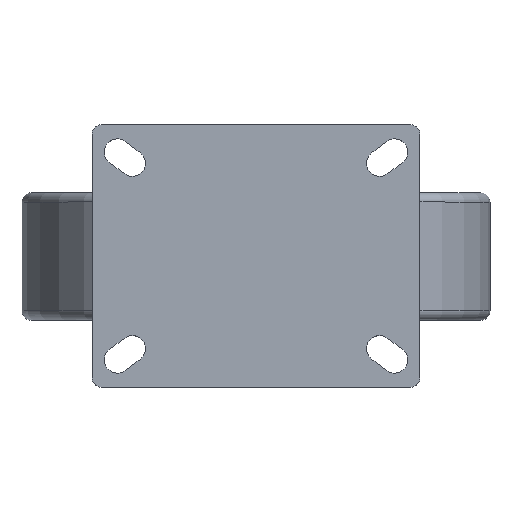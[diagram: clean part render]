
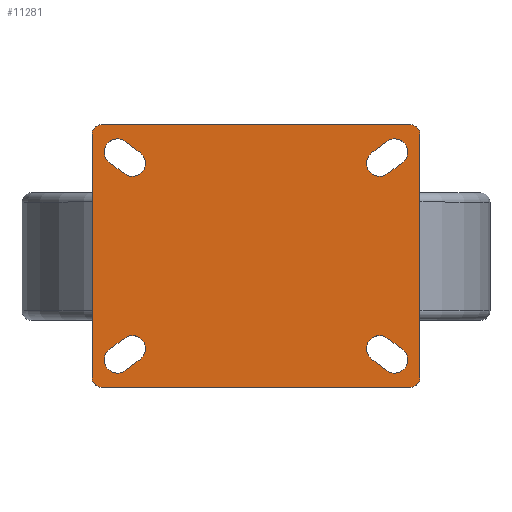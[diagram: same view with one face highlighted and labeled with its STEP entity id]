
A CAD part, top view. The second image highlights one B-rep face of the part: STEP entity #11281.
In plain terms, the highlighted planar face has unit normal (0, 0, 1).
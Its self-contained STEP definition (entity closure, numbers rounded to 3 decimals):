
#845=FACE_BOUND('',#4048,.T.);
#846=FACE_BOUND('',#4049,.T.);
#847=FACE_BOUND('',#4050,.T.);
#848=FACE_BOUND('',#4051,.T.);
#1723=LINE('',#19328,#2678);
#1726=LINE('',#19336,#2681);
#1729=LINE('',#19344,#2684);
#1732=LINE('',#19352,#2687);
#1735=LINE('',#19360,#2690);
#1738=LINE('',#19368,#2693);
#1741=LINE('',#19376,#2696);
#1744=LINE('',#19384,#2699);
#1748=LINE('',#19396,#2703);
#1751=LINE('',#19404,#2706);
#1754=LINE('',#19412,#2709);
#1757=LINE('',#19419,#2712);
#2678=VECTOR('',#13797,10.);
#2681=VECTOR('',#13806,10.);
#2684=VECTOR('',#13815,10.);
#2687=VECTOR('',#13824,10.);
#2690=VECTOR('',#13833,10.);
#2693=VECTOR('',#13842,10.);
#2696=VECTOR('',#13851,10.);
#2699=VECTOR('',#13860,10.);
#2703=VECTOR('',#13874,10.);
#2706=VECTOR('',#13883,10.);
#2709=VECTOR('',#13892,10.);
#2712=VECTOR('',#13901,10.);
#3378=FACE_OUTER_BOUND('',#4047,.T.);
#4047=EDGE_LOOP('',(#10163,#10164,#10165,#10166,#10167,#10168,#10169,#10170));
#4048=EDGE_LOOP('',(#10171,#10172,#10173,#10174));
#4049=EDGE_LOOP('',(#10175,#10176,#10177,#10178));
#4050=EDGE_LOOP('',(#10179,#10180,#10181,#10182));
#4051=EDGE_LOOP('',(#10183,#10184,#10185,#10186));
#4274=CIRCLE('',#11840,7.);
#4275=CIRCLE('',#11843,7.);
#4276=CIRCLE('',#11846,7.);
#4277=CIRCLE('',#11849,7.);
#4278=CIRCLE('',#11852,7.);
#4279=CIRCLE('',#11855,7.);
#4280=CIRCLE('',#11858,7.);
#4281=CIRCLE('',#11861,7.);
#4282=CIRCLE('',#11863,5.);
#4283=CIRCLE('',#11866,5.);
#4284=CIRCLE('',#11869,5.);
#4285=CIRCLE('',#11872,5.);
#5344=VERTEX_POINT('',#19325);
#5345=VERTEX_POINT('',#19327);
#5346=VERTEX_POINT('',#19331);
#5347=VERTEX_POINT('',#19335);
#5348=VERTEX_POINT('',#19341);
#5349=VERTEX_POINT('',#19343);
#5350=VERTEX_POINT('',#19347);
#5351=VERTEX_POINT('',#19351);
#5352=VERTEX_POINT('',#19357);
#5353=VERTEX_POINT('',#19359);
#5354=VERTEX_POINT('',#19363);
#5355=VERTEX_POINT('',#19367);
#5356=VERTEX_POINT('',#19373);
#5357=VERTEX_POINT('',#19375);
#5358=VERTEX_POINT('',#19379);
#5359=VERTEX_POINT('',#19383);
#5360=VERTEX_POINT('',#19389);
#5361=VERTEX_POINT('',#19391);
#5362=VERTEX_POINT('',#19395);
#5363=VERTEX_POINT('',#19399);
#5364=VERTEX_POINT('',#19403);
#5365=VERTEX_POINT('',#19407);
#5366=VERTEX_POINT('',#19411);
#5367=VERTEX_POINT('',#19415);
#6942=EDGE_CURVE('',#5345,#5344,#1723,.T.);
#6944=EDGE_CURVE('',#5346,#5345,#4274,.T.);
#6946=EDGE_CURVE('',#5347,#5346,#1726,.T.);
#6948=EDGE_CURVE('',#5344,#5347,#4275,.T.);
#6950=EDGE_CURVE('',#5349,#5348,#1729,.T.);
#6952=EDGE_CURVE('',#5350,#5349,#4276,.T.);
#6954=EDGE_CURVE('',#5351,#5350,#1732,.T.);
#6956=EDGE_CURVE('',#5348,#5351,#4277,.T.);
#6958=EDGE_CURVE('',#5353,#5352,#1735,.T.);
#6960=EDGE_CURVE('',#5354,#5353,#4278,.T.);
#6962=EDGE_CURVE('',#5355,#5354,#1738,.T.);
#6964=EDGE_CURVE('',#5352,#5355,#4279,.T.);
#6966=EDGE_CURVE('',#5357,#5356,#1741,.T.);
#6968=EDGE_CURVE('',#5358,#5357,#4280,.T.);
#6970=EDGE_CURVE('',#5359,#5358,#1744,.T.);
#6972=EDGE_CURVE('',#5356,#5359,#4281,.T.);
#6974=EDGE_CURVE('',#5361,#5360,#4282,.T.);
#6976=EDGE_CURVE('',#5362,#5361,#1748,.T.);
#6978=EDGE_CURVE('',#5363,#5362,#4283,.T.);
#6980=EDGE_CURVE('',#5364,#5363,#1751,.T.);
#6982=EDGE_CURVE('',#5365,#5364,#4284,.T.);
#6984=EDGE_CURVE('',#5366,#5365,#1754,.T.);
#6986=EDGE_CURVE('',#5367,#5366,#4285,.T.);
#6988=EDGE_CURVE('',#5360,#5367,#1757,.T.);
#10163=ORIENTED_EDGE('',*,*,#6988,.T.);
#10164=ORIENTED_EDGE('',*,*,#6986,.T.);
#10165=ORIENTED_EDGE('',*,*,#6984,.T.);
#10166=ORIENTED_EDGE('',*,*,#6982,.T.);
#10167=ORIENTED_EDGE('',*,*,#6980,.T.);
#10168=ORIENTED_EDGE('',*,*,#6978,.T.);
#10169=ORIENTED_EDGE('',*,*,#6976,.T.);
#10170=ORIENTED_EDGE('',*,*,#6974,.T.);
#10171=ORIENTED_EDGE('',*,*,#6972,.T.);
#10172=ORIENTED_EDGE('',*,*,#6970,.T.);
#10173=ORIENTED_EDGE('',*,*,#6968,.T.);
#10174=ORIENTED_EDGE('',*,*,#6966,.T.);
#10175=ORIENTED_EDGE('',*,*,#6964,.T.);
#10176=ORIENTED_EDGE('',*,*,#6962,.T.);
#10177=ORIENTED_EDGE('',*,*,#6960,.T.);
#10178=ORIENTED_EDGE('',*,*,#6958,.T.);
#10179=ORIENTED_EDGE('',*,*,#6956,.T.);
#10180=ORIENTED_EDGE('',*,*,#6954,.T.);
#10181=ORIENTED_EDGE('',*,*,#6952,.T.);
#10182=ORIENTED_EDGE('',*,*,#6950,.T.);
#10183=ORIENTED_EDGE('',*,*,#6948,.T.);
#10184=ORIENTED_EDGE('',*,*,#6946,.T.);
#10185=ORIENTED_EDGE('',*,*,#6944,.T.);
#10186=ORIENTED_EDGE('',*,*,#6942,.T.);
#10694=PLANE('',#11874);
#11281=ADVANCED_FACE('',(#3378,#845,#846,#847,#848),#10694,.T.);
#11840=AXIS2_PLACEMENT_3D('',#19332,#13801,#13802);
#11843=AXIS2_PLACEMENT_3D('',#19339,#13810,#13811);
#11846=AXIS2_PLACEMENT_3D('',#19348,#13819,#13820);
#11849=AXIS2_PLACEMENT_3D('',#19355,#13828,#13829);
#11852=AXIS2_PLACEMENT_3D('',#19364,#13837,#13838);
#11855=AXIS2_PLACEMENT_3D('',#19371,#13846,#13847);
#11858=AXIS2_PLACEMENT_3D('',#19380,#13855,#13856);
#11861=AXIS2_PLACEMENT_3D('',#19387,#13864,#13865);
#11863=AXIS2_PLACEMENT_3D('',#19392,#13869,#13870);
#11866=AXIS2_PLACEMENT_3D('',#19400,#13878,#13879);
#11869=AXIS2_PLACEMENT_3D('',#19408,#13887,#13888);
#11872=AXIS2_PLACEMENT_3D('',#19416,#13896,#13897);
#11874=AXIS2_PLACEMENT_3D('',#19420,#13902,#13903);
#13797=DIRECTION('',(0.8,-0.6,0.));
#13801=DIRECTION('center_axis',(0.,0.,-1.));
#13802=DIRECTION('ref_axis',(-0.6,-0.8,0.));
#13806=DIRECTION('',(-0.8,0.6,0.));
#13810=DIRECTION('center_axis',(0.,0.,-1.));
#13811=DIRECTION('ref_axis',(0.6,0.8,0.));
#13815=DIRECTION('',(-0.8,-0.6,0.));
#13819=DIRECTION('center_axis',(0.,0.,-1.));
#13820=DIRECTION('ref_axis',(-0.6,0.8,0.));
#13824=DIRECTION('',(0.8,0.6,0.));
#13828=DIRECTION('center_axis',(0.,0.,-1.));
#13829=DIRECTION('ref_axis',(0.6,-0.8,0.));
#13833=DIRECTION('',(-0.8,0.6,0.));
#13837=DIRECTION('center_axis',(0.,0.,-1.));
#13838=DIRECTION('ref_axis',(0.6,0.8,0.));
#13842=DIRECTION('',(0.8,-0.6,0.));
#13846=DIRECTION('center_axis',(0.,0.,-1.));
#13847=DIRECTION('ref_axis',(-0.6,-0.8,0.));
#13851=DIRECTION('',(-0.8,-0.6,0.));
#13855=DIRECTION('center_axis',(0.,0.,-1.));
#13856=DIRECTION('ref_axis',(-0.6,0.8,0.));
#13860=DIRECTION('',(0.8,0.6,0.));
#13864=DIRECTION('center_axis',(0.,0.,-1.));
#13865=DIRECTION('ref_axis',(0.6,-0.8,0.));
#13869=DIRECTION('center_axis',(0.,0.,1.));
#13870=DIRECTION('ref_axis',(-1.,0.,0.));
#13874=DIRECTION('',(0.,-1.,0.));
#13878=DIRECTION('center_axis',(0.,0.,1.));
#13879=DIRECTION('ref_axis',(0.,1.,0.));
#13883=DIRECTION('',(-1.,0.,0.));
#13887=DIRECTION('center_axis',(0.,0.,1.));
#13888=DIRECTION('ref_axis',(1.,0.,0.));
#13892=DIRECTION('',(0.,1.,0.));
#13896=DIRECTION('center_axis',(0.,0.,1.));
#13897=DIRECTION('ref_axis',(0.,-1.,0.));
#13901=DIRECTION('',(1.,0.,0.));
#13902=DIRECTION('center_axis',(0.,0.,1.));
#13903=DIRECTION('ref_axis',(1.,0.,0.));
#19325=CARTESIAN_POINT('',(78.2,-49.9,10.));
#19327=CARTESIAN_POINT('',(70.2,-43.9,10.));
#19328=CARTESIAN_POINT('',(70.2,-43.9,10.));
#19331=CARTESIAN_POINT('',(61.8,-55.1,10.));
#19332=CARTESIAN_POINT('Origin',(66.,-49.5,10.));
#19335=CARTESIAN_POINT('',(69.8,-61.1,10.));
#19336=CARTESIAN_POINT('',(69.8,-61.1,10.));
#19339=CARTESIAN_POINT('Origin',(74.,-55.5,10.));
#19341=CARTESIAN_POINT('',(70.2,43.9,10.));
#19343=CARTESIAN_POINT('',(78.2,49.9,10.));
#19344=CARTESIAN_POINT('',(78.2,49.9,10.));
#19347=CARTESIAN_POINT('',(69.8,61.1,10.));
#19348=CARTESIAN_POINT('Origin',(74.,55.5,10.));
#19351=CARTESIAN_POINT('',(61.8,55.1,10.));
#19352=CARTESIAN_POINT('',(61.8,55.1,10.));
#19355=CARTESIAN_POINT('Origin',(66.,49.5,10.));
#19357=CARTESIAN_POINT('',(-78.2,49.9,10.));
#19359=CARTESIAN_POINT('',(-70.2,43.9,10.));
#19360=CARTESIAN_POINT('',(-70.2,43.9,10.));
#19363=CARTESIAN_POINT('',(-61.8,55.1,10.));
#19364=CARTESIAN_POINT('Origin',(-66.,49.5,10.));
#19367=CARTESIAN_POINT('',(-69.8,61.1,10.));
#19368=CARTESIAN_POINT('',(-69.8,61.1,10.));
#19371=CARTESIAN_POINT('Origin',(-74.,55.5,10.));
#19373=CARTESIAN_POINT('',(-69.8,-61.1,10.));
#19375=CARTESIAN_POINT('',(-61.8,-55.1,10.));
#19376=CARTESIAN_POINT('',(-61.8,-55.1,10.));
#19379=CARTESIAN_POINT('',(-70.2,-43.9,10.));
#19380=CARTESIAN_POINT('Origin',(-66.,-49.5,10.));
#19383=CARTESIAN_POINT('',(-78.2,-49.9,10.));
#19384=CARTESIAN_POINT('',(-78.2,-49.9,10.));
#19387=CARTESIAN_POINT('Origin',(-74.,-55.5,10.));
#19389=CARTESIAN_POINT('',(-82.5,-70.,10.));
#19391=CARTESIAN_POINT('',(-87.5,-65.,10.));
#19392=CARTESIAN_POINT('Origin',(-82.5,-65.,10.));
#19395=CARTESIAN_POINT('',(-87.5,65.,10.));
#19396=CARTESIAN_POINT('',(-87.5,65.,10.));
#19399=CARTESIAN_POINT('',(-82.5,70.,10.));
#19400=CARTESIAN_POINT('Origin',(-82.5,65.,10.));
#19403=CARTESIAN_POINT('',(82.5,70.,10.));
#19404=CARTESIAN_POINT('',(82.5,70.,10.));
#19407=CARTESIAN_POINT('',(87.5,65.,10.));
#19408=CARTESIAN_POINT('Origin',(82.5,65.,10.));
#19411=CARTESIAN_POINT('',(87.5,-65.,10.));
#19412=CARTESIAN_POINT('',(87.5,-65.,10.));
#19415=CARTESIAN_POINT('',(82.5,-70.,10.));
#19416=CARTESIAN_POINT('Origin',(82.5,-65.,10.));
#19419=CARTESIAN_POINT('',(-82.5,-70.,10.));
#19420=CARTESIAN_POINT('Origin',(0.,0.,
10.));
